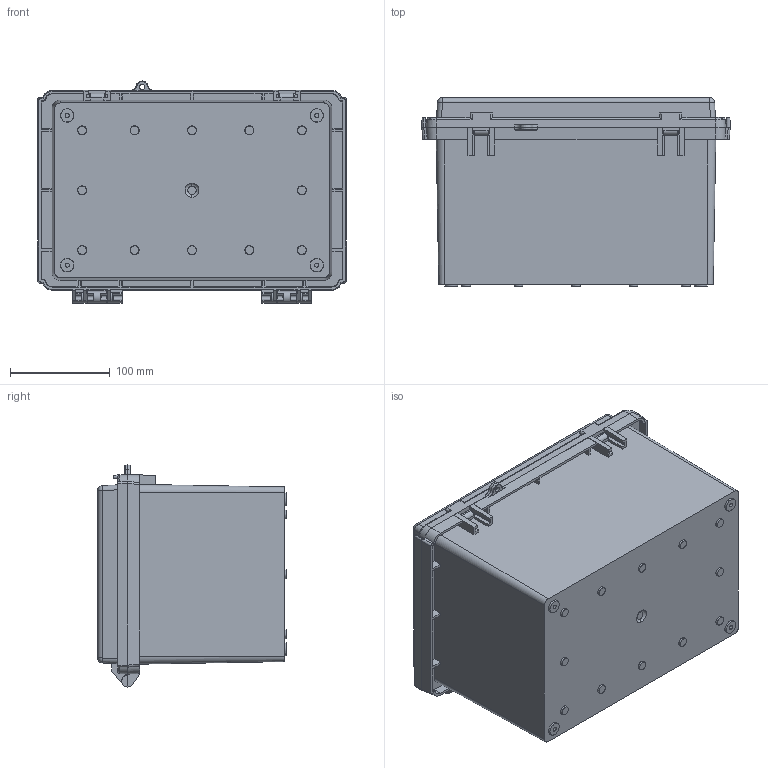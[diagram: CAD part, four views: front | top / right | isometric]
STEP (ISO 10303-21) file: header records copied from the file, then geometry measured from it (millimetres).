
FILE_DESCRIPTION (( 'STEP AP203' ), '1' );
FILE_NAME ('EC-2030-18-0-0.STEP', '2020-03-19T12:22:46', ( '' ), ( '' ), 'SwSTEP 2.0', 'SolidWorks 2020', '' );
FILE_SCHEMA (( 'CONFIG_CONTROL_DESIGN' ));
Length unit declared in the file: millimetre
Products named in the file (4): EC-2030-Pcb_Sample; EC-2030-18-0-0; EC-2030-P-2; EC-2030-P-1
Assembly tree (3 placements, depth 2):
  EC-2030-18-0-0
    EC-2030-P-2
    EC-2030-P-1
    EC-2030-Pcb_Sample
Bounding box: 309 x 189 x 222.4 mm (x, y, z)
Volume: 1101418.1 mm3; surface area: 703591.7 mm2
Topology: 3 solids, 3 shells, 655 faces, 1722 edges, 1106 vertices
Faces by surface type: plane 369, cylinder 128, cone 96, bspline 40, torus 13, sphere 9
Entity records: 21868 total; most frequent: CARTESIAN_POINT 5662, ORIENTED_EDGE 3422, DIRECTION 3120, EDGE_CURVE 1711, VERTEX_POINT 1104, VECTOR 1092, LINE 1092, AXIS2_PLACEMENT_3D 1014
